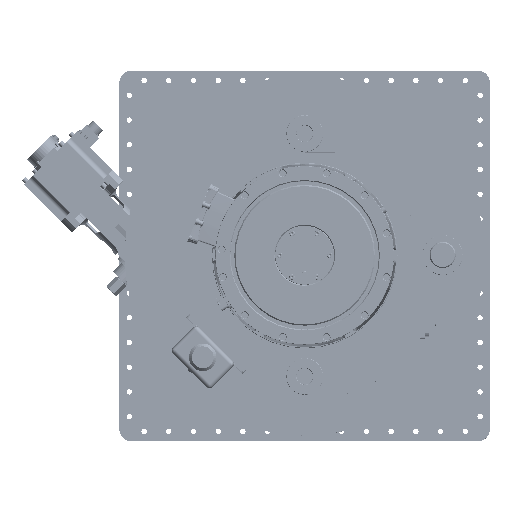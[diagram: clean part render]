
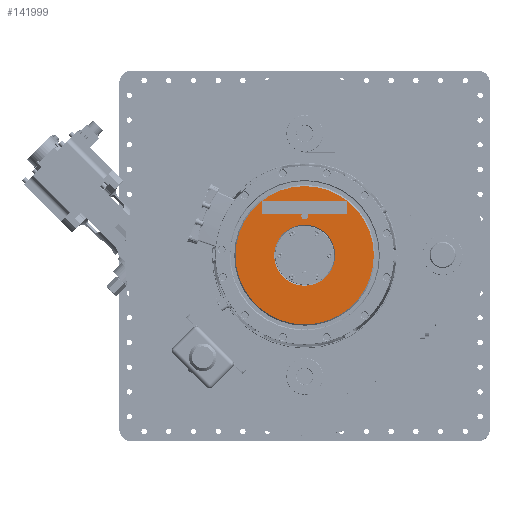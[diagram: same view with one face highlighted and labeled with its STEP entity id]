
A CAD part, top view. The second image highlights one B-rep face of the part: STEP entity #141999.
In plain terms, the highlighted planar face has unit normal (0, 0, 1).
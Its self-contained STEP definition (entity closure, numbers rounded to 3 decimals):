
#5025=PLANE('',#153268);
#9305=FACE_BOUND('',#22958,.T.);
#9306=FACE_BOUND('',#22959,.T.);
#15032=FACE_OUTER_BOUND('',#22957,.T.);
#22957=EDGE_LOOP('',(#113102));
#22958=EDGE_LOOP('',(#113103,#113104,#113105,#113106,#113107,#113108));
#22959=EDGE_LOOP('',(#113109));
#26502=CIRCLE('',#145381,74.);
#26560=CIRCLE('',#145458,167.975);
#30037=CIRCLE('',#153269,8.);
#39954=LINE('',#267699,#49957);
#39955=LINE('',#267701,#49958);
#39956=LINE('',#267703,#49959);
#39957=LINE('',#267705,#49960);
#39958=LINE('',#267707,#49961);
#49957=VECTOR('',#183180,10.);
#49958=VECTOR('',#183181,10.);
#49959=VECTOR('',#183182,10.);
#49960=VECTOR('',#183183,10.);
#49961=VECTOR('',#183184,10.);
#53750=VERTEX_POINT('',#199608);
#53806=VERTEX_POINT('',#199758);
#61787=VERTEX_POINT('',#267697);
#61788=VERTEX_POINT('',#267698);
#61789=VERTEX_POINT('',#267700);
#61790=VERTEX_POINT('',#267702);
#61791=VERTEX_POINT('',#267704);
#61792=VERTEX_POINT('',#267706);
#67353=EDGE_CURVE('',#53750,#53750,#26502,.T.);
#67428=EDGE_CURVE('',#53806,#53806,#26560,.T.);
#79881=EDGE_CURVE('',#61787,#61788,#39954,.T.);
#79882=EDGE_CURVE('',#61788,#61789,#39955,.T.);
#79883=EDGE_CURVE('',#61789,#61790,#39956,.T.);
#79884=EDGE_CURVE('',#61790,#61791,#39957,.T.);
#79885=EDGE_CURVE('',#61791,#61792,#39958,.T.);
#79886=EDGE_CURVE('',#61792,#61787,#30037,.T.);
#113102=ORIENTED_EDGE('',*,*,#67428,.T.);
#113103=ORIENTED_EDGE('',*,*,#79881,.T.);
#113104=ORIENTED_EDGE('',*,*,#79882,.T.);
#113105=ORIENTED_EDGE('',*,*,#79883,.T.);
#113106=ORIENTED_EDGE('',*,*,#79884,.T.);
#113107=ORIENTED_EDGE('',*,*,#79885,.T.);
#113108=ORIENTED_EDGE('',*,*,#79886,.T.);
#113109=ORIENTED_EDGE('',*,*,#67353,.F.);
#141999=ADVANCED_FACE('',(#15032,#9305,#9306),#5025,.T.);
#145381=AXIS2_PLACEMENT_3D('',#199610,#160986,#160987);
#145458=AXIS2_PLACEMENT_3D('',#199760,#161157,#161158);
#153268=AXIS2_PLACEMENT_3D('',#267696,#183178,#183179);
#153269=AXIS2_PLACEMENT_3D('',#267708,#183185,#183186);
#160986=DIRECTION('center_axis',(0.,0.,
1.));
#160987=DIRECTION('ref_axis',(0.,1.,0.));
#161157=DIRECTION('center_axis',(0.,0.,
1.));
#161158=DIRECTION('ref_axis',(0.,1.,0.));
#183178=DIRECTION('center_axis',(0.,0.,
1.));
#183179=DIRECTION('ref_axis',(1.,0.,0.));
#183180=DIRECTION('',(-1.,0.,0.));
#183181=DIRECTION('',(0.,1.,0.));
#183182=DIRECTION('',(1.,0.,0.));
#183183=DIRECTION('',(0.,-1.,0.));
#183184=DIRECTION('',(-1.,0.,0.));
#183185=DIRECTION('center_axis',(0.,0.,
-1.));
#183186=DIRECTION('ref_axis',(1.,0.,0.));
#199608=CARTESIAN_POINT('',(0.,-74.,1039.6));
#199610=CARTESIAN_POINT('Origin',(0.,0.,
1039.6));
#199758=CARTESIAN_POINT('',(0.,-167.975,1039.6));
#199760=CARTESIAN_POINT('Origin',(0.,0.,
1039.6));
#267696=CARTESIAN_POINT('Origin',(0.,123.254,
1039.6));
#267697=CARTESIAN_POINT('',(-6.05,100.234,1039.6));
#267698=CARTESIAN_POINT('',(-103.143,100.234,1039.6));
#267699=CARTESIAN_POINT('',(51.153,100.234,1039.6));
#267700=CARTESIAN_POINT('',(-103.143,131.873,1039.6));
#267701=CARTESIAN_POINT('',(-103.143,111.744,1039.6));
#267702=CARTESIAN_POINT('',(102.305,131.873,1039.6));
#267703=CARTESIAN_POINT('',(-51.571,131.873,1039.6));
#267704=CARTESIAN_POINT('',(102.305,100.234,1039.6));
#267705=CARTESIAN_POINT('',(102.305,127.563,1039.6));
#267706=CARTESIAN_POINT('',(6.05,100.234,1039.6));
#267707=CARTESIAN_POINT('',(51.153,100.234,1039.6));
#267708=CARTESIAN_POINT('Origin',(0.,95.,
1039.6));
